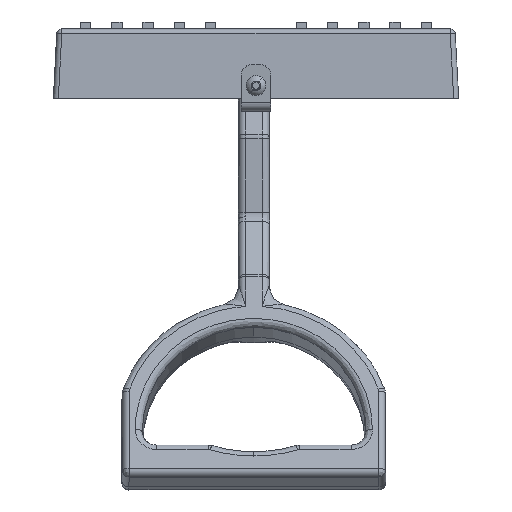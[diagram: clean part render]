
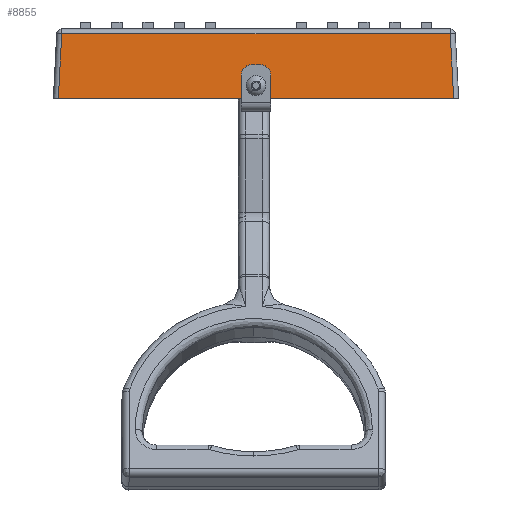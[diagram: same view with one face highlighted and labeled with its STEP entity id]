
A CAD part, front view. The second image highlights one B-rep face of the part: STEP entity #8855.
In plain terms, the highlighted planar face has unit normal (0, -0.999, 0.052).
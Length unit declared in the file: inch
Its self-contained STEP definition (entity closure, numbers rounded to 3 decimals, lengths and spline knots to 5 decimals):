
#2095 = EDGE_CURVE ( 'NONE', #38016, #23665, #76079, .T. ) ;
#2703 = LINE ( 'NONE', #46692, #9350 ) ;
#6633 = DIRECTION ( 'NONE',  ( 0., -0.999, 0.052 ) ) ;
#8855 = ADVANCED_FACE ( 'NONE', ( #16722, #57502 ), #56794, .T. ) ;
#9350 = VECTOR ( 'NONE', #41406, 39.37008 ) ;
#10120 = DIRECTION ( 'NONE',  ( 0., -0.052, -0.999 ) ) ;
#14694 = ORIENTED_EDGE ( 'NONE', *, *, #30734, .T. ) ;
#16722 = FACE_BOUND ( 'NONE', #22325, .T. ) ;
#17423 = DIRECTION ( 'NONE',  ( -1., 0., 0. ) ) ;
#18682 = EDGE_CURVE ( 'NONE', #22374, #54124, #64025, .T. ) ;
#18942 = CARTESIAN_POINT ( 'NONE',  ( -3.55512, -3.0625, 0. ) ) ;
#21293 = EDGE_CURVE ( 'NONE', #54124, #22374, #70367, .T. ) ;
#22325 = EDGE_LOOP ( 'NONE', ( #75689, #43737 ) ) ;
#22374 = VERTEX_POINT ( 'NONE', #47304 ) ;
#23665 = VERTEX_POINT ( 'NONE', #25647 ) ;
#25647 = CARTESIAN_POINT ( 'NONE',  ( 3.55512, -3.0625, 0. ) ) ;
#27937 = LINE ( 'NONE', #35046, #50719 ) ;
#30094 = CARTESIAN_POINT ( 'NONE',  ( -3.49408, -3.00146, 1.16471 ) ) ;
#30734 = EDGE_CURVE ( 'NONE', #74923, #38016, #27937, .T. ) ;
#33989 = AXIS2_PLACEMENT_3D ( 'NONE', #53580, #6633, #49054 ) ;
#34370 = VECTOR ( 'NONE', #49229, 39.37008 ) ;
#34692 = CARTESIAN_POINT ( 'NONE',  ( -3.645, -3.0625, 0. ) ) ;
#35046 = CARTESIAN_POINT ( 'NONE',  ( -3.55537, -3.06275, -0.00468 ) ) ;
#36507 = LINE ( 'NONE', #71778, #44074 ) ;
#37517 = DIRECTION ( 'NONE',  ( 0., -0.999, 0.052 ) ) ;
#37697 = AXIS2_PLACEMENT_3D ( 'NONE', #52244, #39331, #10120 ) ;
#38016 = VERTEX_POINT ( 'NONE', #18942 ) ;
#39331 = DIRECTION ( 'NONE',  ( 0., -0.999, 0.052 ) ) ;
#41406 = DIRECTION ( 'NONE',  ( -0.052, 0.052, 0.997 ) ) ;
#43737 = ORIENTED_EDGE ( 'NONE', *, *, #21293, .F. ) ;
#44074 = VECTOR ( 'NONE', #17423, 39.37008 ) ;
#46692 = CARTESIAN_POINT ( 'NONE',  ( 3.53546, -3.04283, 0.37528 ) ) ;
#47242 = DIRECTION ( 'NONE',  ( -0.052, -0.052, -0.997 ) ) ;
#47304 = CARTESIAN_POINT ( 'NONE',  ( 0., -3.05333, 0.17501 ) ) ;
#49054 = DIRECTION ( 'NONE',  ( 0., -0.052, -0.999 ) ) ;
#49229 = DIRECTION ( 'NONE',  ( 1., 0., 0. ) ) ;
#50719 = VECTOR ( 'NONE', #47242, 39.37008 ) ;
#52244 = CARTESIAN_POINT ( 'NONE',  ( -3.645, -3.0625, 0. ) ) ;
#53580 = CARTESIAN_POINT ( 'NONE',  ( 0., -3.04942, 0.24966 ) ) ;
#53871 = EDGE_LOOP ( 'NONE', ( #63197, #14694, #66160, #57981 ) ) ;
#54124 = VERTEX_POINT ( 'NONE', #57424 ) ;
#56567 = EDGE_CURVE ( 'NONE', #23665, #75329, #2703, .T. ) ;
#56794 = PLANE ( 'NONE',  #37697 ) ;
#57424 = CARTESIAN_POINT ( 'NONE',  ( 0., -3.0455, 0.3243 ) ) ;
#57502 = FACE_OUTER_BOUND ( 'NONE', #53871, .T. ) ;
#57981 = ORIENTED_EDGE ( 'NONE', *, *, #56567, .T. ) ;
#61375 = CARTESIAN_POINT ( 'NONE',  ( 3.49408, -3.00146, 1.16471 ) ) ;
#63197 = ORIENTED_EDGE ( 'NONE', *, *, #74560, .T. ) ;
#64025 = CIRCLE ( 'NONE', #77037, 0.07475 ) ;
#66160 = ORIENTED_EDGE ( 'NONE', *, *, #2095, .T. ) ;
#67428 = DIRECTION ( 'NONE',  ( 0., -0.052, -0.999 ) ) ;
#68192 = CARTESIAN_POINT ( 'NONE',  ( 0., -3.04942, 0.24966 ) ) ;
#70367 = CIRCLE ( 'NONE', #33989, 0.07475 ) ;
#71778 = CARTESIAN_POINT ( 'NONE',  ( -3.645, -3.00146, 1.16471 ) ) ;
#74560 = EDGE_CURVE ( 'NONE', #75329, #74923, #36507, .T. ) ;
#74923 = VERTEX_POINT ( 'NONE', #30094 ) ;
#75329 = VERTEX_POINT ( 'NONE', #61375 ) ;
#75689 = ORIENTED_EDGE ( 'NONE', *, *, #18682, .F. ) ;
#76079 = LINE ( 'NONE', #34692, #34370 ) ;
#77037 = AXIS2_PLACEMENT_3D ( 'NONE', #68192, #37517, #67428 ) ;
